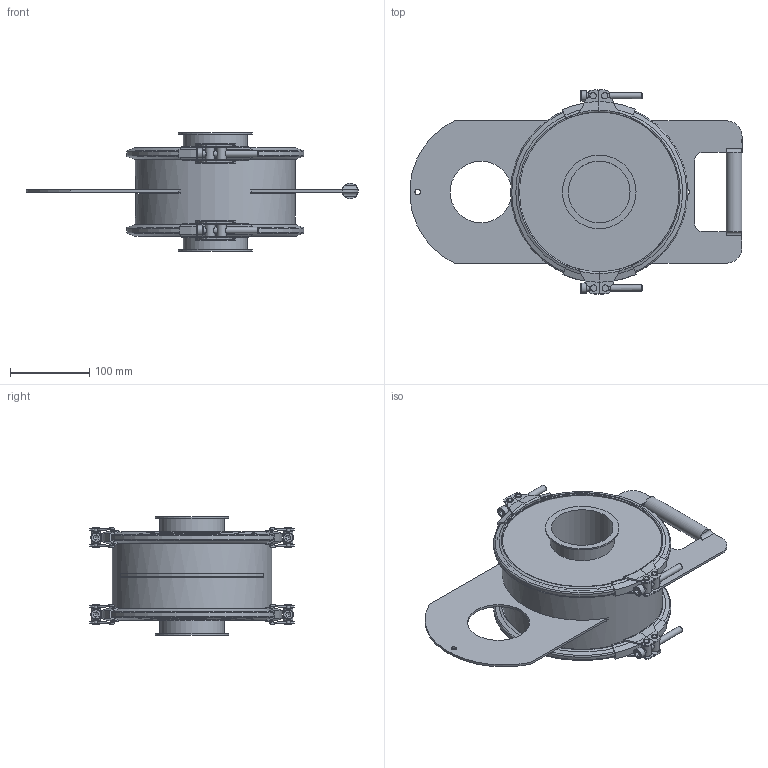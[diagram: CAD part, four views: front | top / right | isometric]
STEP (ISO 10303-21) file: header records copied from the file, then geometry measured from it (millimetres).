
FILE_DESCRIPTION((''),'2;1');
FILE_NAME('U:\Wolfgang\Marcel-3D\fertig\Kapitel 9\0811081.stp','2011-10-11T12:58:03',('iwienholt'),(''),'Autodesk Inventor 2010','Autodesk Inventor 2010','');
FILE_SCHEMA(('AUTOMOTIVE_DESIGN { 1 0 10303 214 1 1 1 1 }'));
Length unit declared in the file: millimetre
Products named in the file (10): 0811081; Rohr DN80; Schieber DN80; 2022055; 2022055-1; Verschluss b=224; Verschlussrolle; VerschlussrolleGewinde; ISO 4762 M8 x 70; 2022055-Dichtmasse
Assembly tree (17 placements, depth 3):
  0811081
    Rohr DN80
    Schieber DN80
    2022055  x2
      2022055-1
      Verschluss b=224
      Verschlussrolle
      VerschlussrolleGewinde
      ISO 4762 M8 x 70
      2022055-Dichtmasse
Bounding box: 419.63 x 257.99 x 150 mm (x, y, z)
Volume: 779872 mm3; surface area: 642666.5 mm2
Topology: 28 solids, 28 shells, 870 faces, 2306 edges, 1522 vertices
Faces by surface type: cylinder 269, plane 246, bspline 175, cone 144, torus 36
Full cylindrical faces by diameter (mm): 5 x16, 6 x4, 8 x20, 12 x8, 13 x4, 20 x1, 78 x3, 81 x4, 93 x1, 199 x1, 202 x3, 214 x1, 220 x2
Entity records: 7273 total; most frequent: CARTESIAN_POINT 2403, DIRECTION 978, ORIENTED_EDGE 890, EDGE_CURVE 445, AXIS2_PLACEMENT_3D 392, VERTEX_POINT 317, EDGE_LOOP 274, FACE_OUTER_BOUND 199
